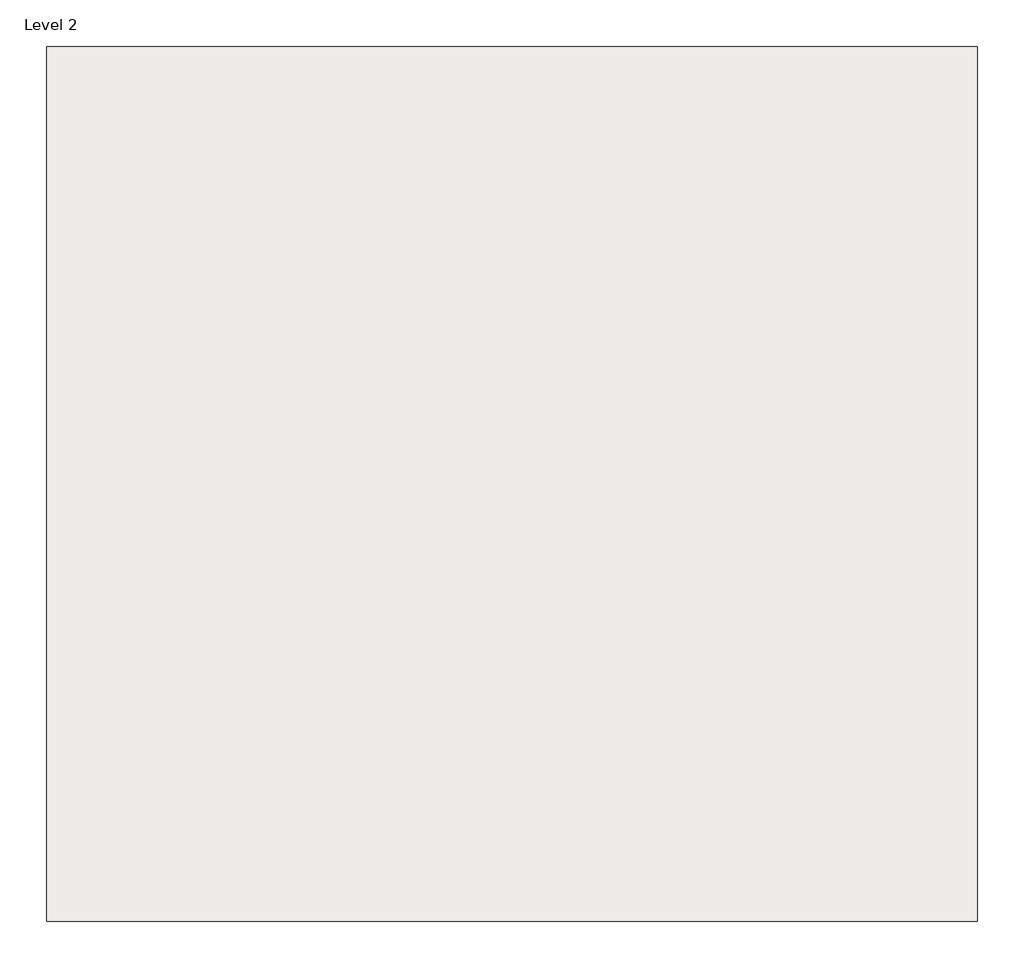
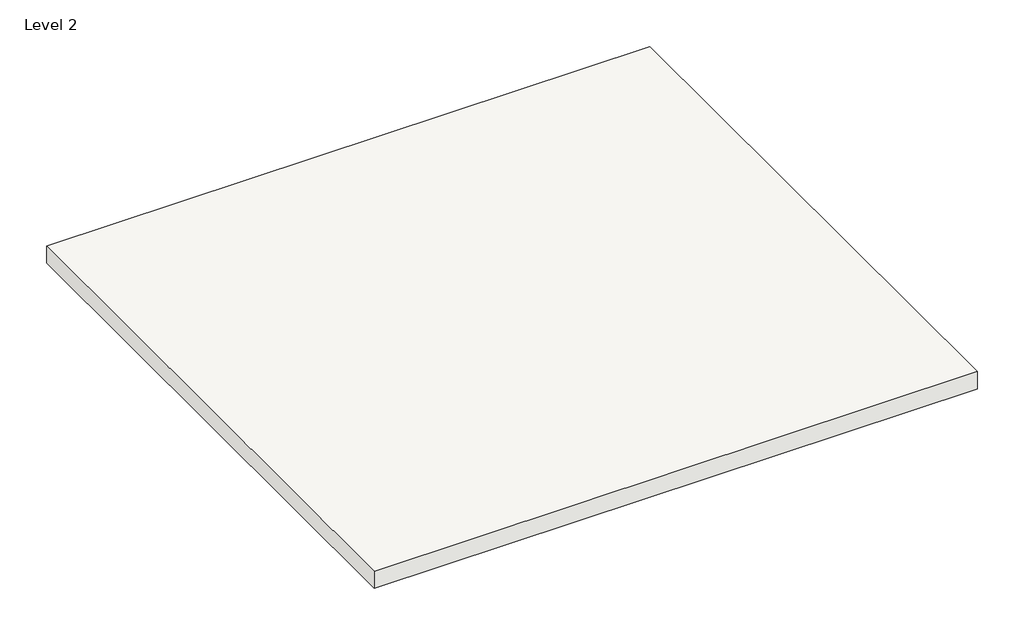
# One storey: 1 slab.
"""IFC4 building model written with IfcOpenShell, lengths in millimetres."""

from ifc_helpers import new_model, si_unit, frame, origin, place, context, project, spatial, polyline, outline, extrude, element, save

model = new_model("IFC4")

# Units and contexts
model_context = context("Model", 3, world=origin())
ifc_project = project(units=[si_unit("LENGTHUNIT", "METRE", prefix="MILLI")], contexts=[model_context])

# Site, building, storey
site = spatial("IfcSite", under=ifc_project)
building = spatial("IfcBuilding", under=site)
storey = spatial("IfcBuildingStorey", under=building, Name="Level 2", Elevation=3000.0)

# Slab
placement = place(None, origin())
element("IfcSlab", 1, ObjectType="Generic Floor - 150mm", at=placement, inside=storey, context=model_context, shape_type="SweptSolid", body=[
    extrude(outline(polyline([(-3405.090184, 4615.2076786), (-3405.090184, -84.7923214), (-8405.090184, -84.7923214), (-8405.090184, 4615.2076786), (-3405.090184, 4615.2076786)])), frame((0.0, 0.0, 3000.0), z_axis=(0.0, 0.0, 1.0), x_axis=(1.0, 0.0, 0.0)), (0.0, 0.0, 1.0), 150.0),
])

save(model, "model.ifc")
